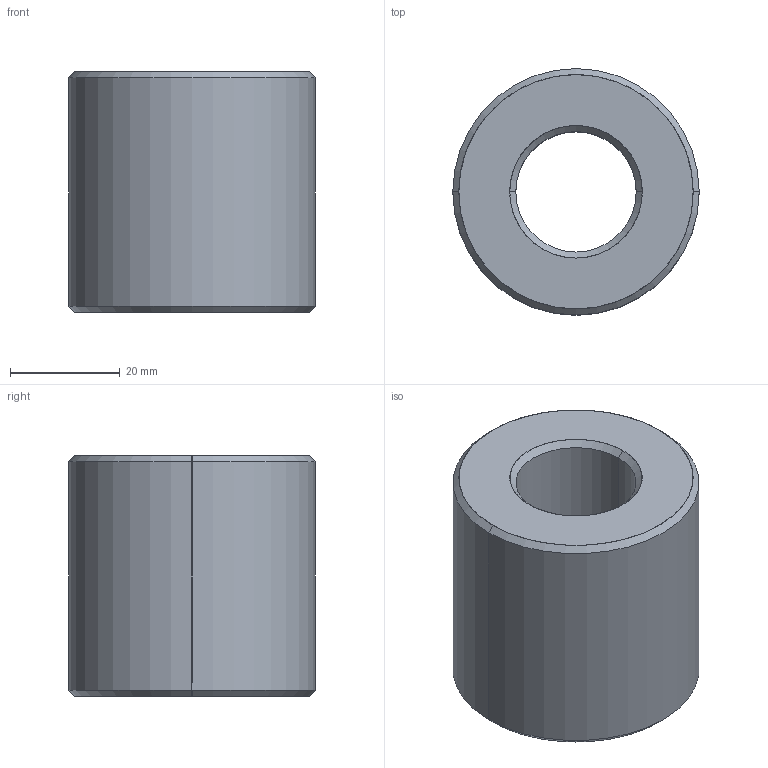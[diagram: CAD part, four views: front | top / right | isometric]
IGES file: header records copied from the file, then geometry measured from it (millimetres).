
Start section: SolidWorks IGES file using analytic representation for surfaces
Global section: file name: C:\Users\ianosborn\Desktop\L1330_v2\L1330_v2_20241024_IGES\L1330.R22-05.igs; native system: SolidWorks 2019; preprocessor: SolidWorks 2019; author: IanOsborn; date: 241024.102704; units: millimetre
Bounding box: 45 x 45 x 44 mm (x, y, z)
Surface area: 11410.7 mm2 (no closed solid volume)
Topology: 0 solids, 0 shells, 14 faces, 240 edges, 240 vertices
Faces by surface type: revolution 12, bspline 2
